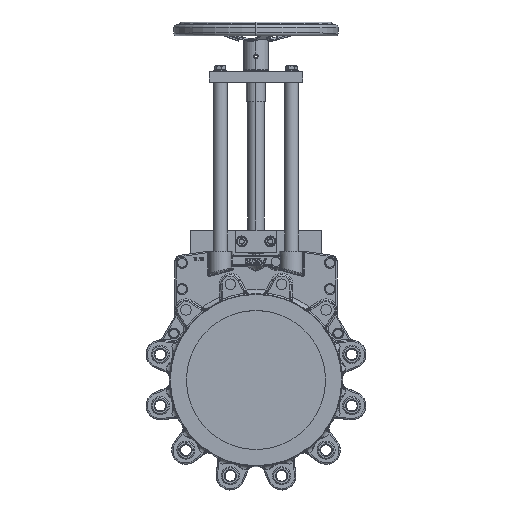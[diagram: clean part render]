
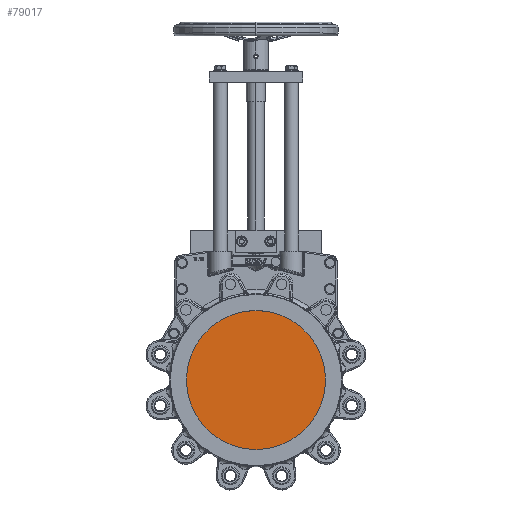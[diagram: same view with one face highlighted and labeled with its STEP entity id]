
A CAD part, top view. The second image highlights one B-rep face of the part: STEP entity #79017.
In plain terms, the highlighted planar face has unit normal (0, 0, 1).
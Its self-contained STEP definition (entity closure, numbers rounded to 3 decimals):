
#14988 = CARTESIAN_POINT ( 'NONE',  ( 0., 92., -0.25 ) ) ;
#29421 = DIRECTION ( 'NONE',  ( 0., 0., 1. ) ) ;
#34561 = FACE_OUTER_BOUND ( 'NONE', #81756, .T. ) ;
#39472 = CIRCLE ( 'NONE', #43842, 127. ) ;
#43842 = AXIS2_PLACEMENT_3D ( 'NONE', #99868, #29421, #70770 ) ;
#56340 = DIRECTION ( 'NONE',  ( 0., 0., 1. ) ) ;
#65741 = DIRECTION ( 'NONE',  ( 0., 0., -1. ) ) ;
#70770 = DIRECTION ( 'NONE',  ( 0., 1., 0. ) ) ;
#72078 = CIRCLE ( 'NONE', #72361, 127. ) ;
#72361 = AXIS2_PLACEMENT_3D ( 'NONE', #115383, #56340, #76641 ) ;
#72574 = CARTESIAN_POINT ( 'NONE',  ( -127., 0., -0.25 ) ) ;
#76641 = DIRECTION ( 'NONE',  ( 0., 1., 0. ) ) ;
#78883 = ORIENTED_EDGE ( 'NONE', *, *, #89463, .T. ) ;
#79017 = ADVANCED_FACE ( 'NONE', ( #34561 ), #107003, .F. ) ;
#79862 = AXIS2_PLACEMENT_3D ( 'NONE', #14988, #65741, #127311 ) ;
#81756 = EDGE_LOOP ( 'NONE', ( #78883, #100110 ) ) ;
#86124 = EDGE_CURVE ( 'NONE', #98387, #97239, #39472, .T. ) ;
#89463 = EDGE_CURVE ( 'NONE', #97239, #98387, #72078, .T. ) ;
#97239 = VERTEX_POINT ( 'NONE', #123455 ) ;
#98387 = VERTEX_POINT ( 'NONE', #72574 ) ;
#99868 = CARTESIAN_POINT ( 'NONE',  ( 0., 0., -0.25 ) ) ;
#100110 = ORIENTED_EDGE ( 'NONE', *, *, #86124, .T. ) ;
#107003 = PLANE ( 'NONE',  #79862 ) ;
#115383 = CARTESIAN_POINT ( 'NONE',  ( 0., 0., -0.25 ) ) ;
#123455 = CARTESIAN_POINT ( 'NONE',  ( 127., 0., -0.25 ) ) ;
#127311 = DIRECTION ( 'NONE',  ( -1., 0., 0. ) ) ;
